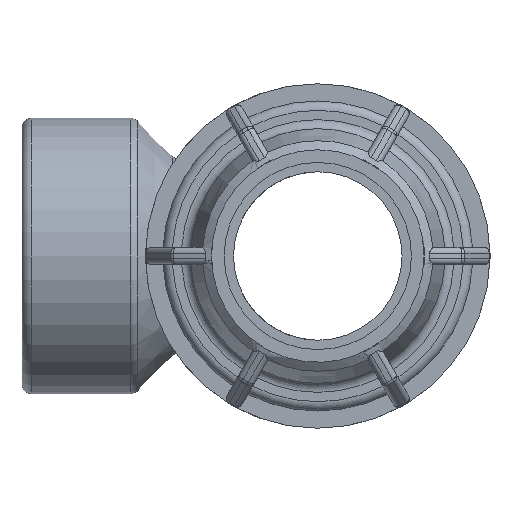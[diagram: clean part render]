
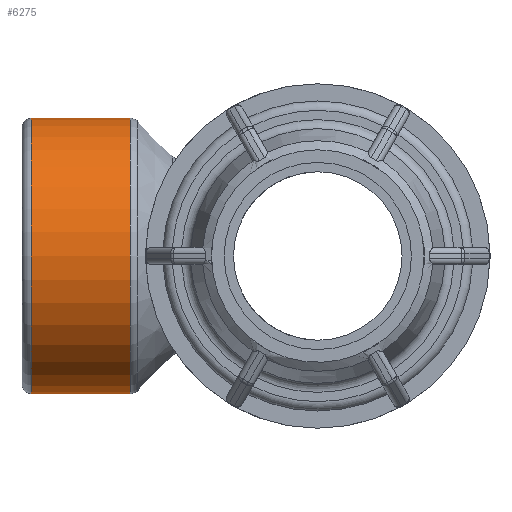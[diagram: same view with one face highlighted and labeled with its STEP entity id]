
A CAD part, left-side view. The second image highlights one B-rep face of the part: STEP entity #6275.
In plain terms, the highlighted cylindrical face has radius 36.826 mm (diameter 73.653 mm), a full revolution.
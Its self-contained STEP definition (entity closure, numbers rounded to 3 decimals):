
#1262=FACE_BOUND('',#2115,.T.);
#1672=FACE_OUTER_BOUND('',#2114,.T.);
#2114=EDGE_LOOP('',(#5734));
#2115=EDGE_LOOP('',(#5735));
#2467=CIRCLE('',#7026,36.826);
#2469=CIRCLE('',#7029,36.826);
#3007=VERTEX_POINT('',#11980);
#3009=VERTEX_POINT('',#11985);
#3919=EDGE_CURVE('',#3007,#3007,#2467,.T.);
#3921=EDGE_CURVE('',#3009,#3009,#2469,.T.);
#5734=ORIENTED_EDGE('',*,*,#3921,.F.);
#5735=ORIENTED_EDGE('',*,*,#3919,.F.);
#5870=CYLINDRICAL_SURFACE('',#7028,36.826);
#6275=ADVANCED_FACE('',(#1672,#1262),#5870,.T.);
#7026=AXIS2_PLACEMENT_3D('',#11981,#8886,#8887);
#7028=AXIS2_PLACEMENT_3D('',#11984,#8890,#8891);
#7029=AXIS2_PLACEMENT_3D('',#11986,#8892,#8893);
#8886=DIRECTION('center_axis',(0.,1.,0.));
#8887=DIRECTION('ref_axis',(1.,0.,0.));
#8890=DIRECTION('center_axis',(0.,1.,0.));
#8891=DIRECTION('ref_axis',(-1.,0.,0.));
#8892=DIRECTION('center_axis',(0.,-1.,0.));
#8893=DIRECTION('ref_axis',(1.,0.,0.));
#11980=CARTESIAN_POINT('',(-36.826,76.5,0.));
#11981=CARTESIAN_POINT('Origin',(0.,76.5,0.));
#11984=CARTESIAN_POINT('Origin',(0.,64.,0.));
#11985=CARTESIAN_POINT('',(-36.826,50.036,0.));
#11986=CARTESIAN_POINT('Origin',(0.,50.036,0.));
